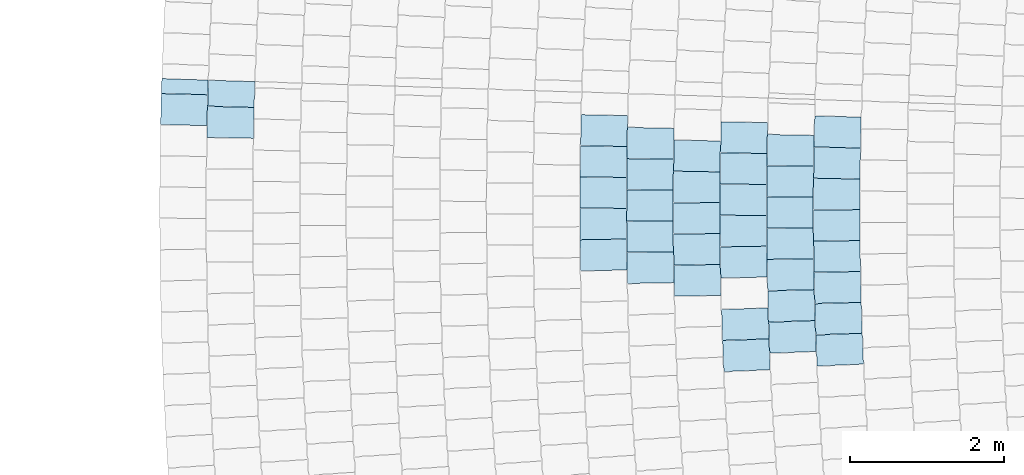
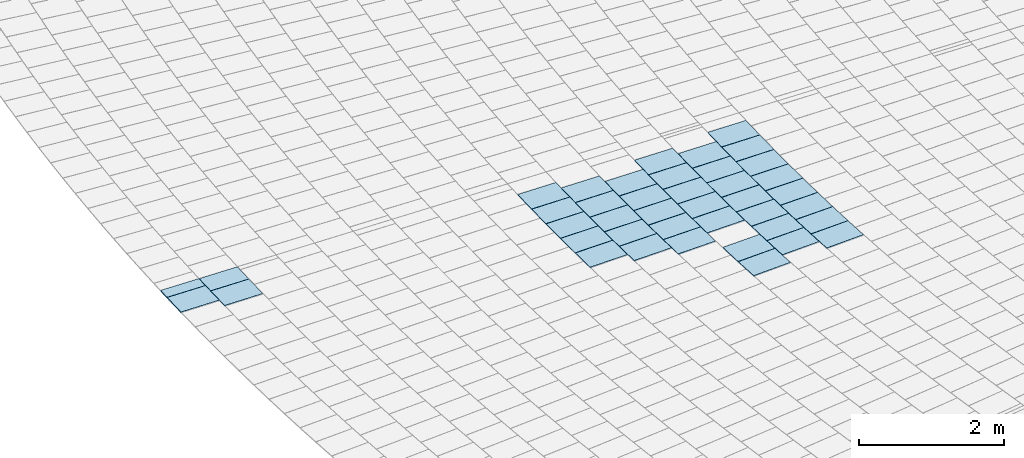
# One storey, part 84 of 438: 41 slabs.
"""IFC2X3 building model written with IfcOpenShell, lengths in millimetres."""

from ifc_helpers import new_model, entity, si_unit, converted_unit, derived_unit, direction, frame, origin, place, context, subcontext, project, spatial, polyline, outline, extrude, material, layer, layer_set, layer_usage, type_object, element, save


model = new_model("IFC2X3")

# Units and contexts
model_context = context("Model", 3, precision=0.01, world=origin(), true_north=direction((6.123031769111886e-17, 1.0)))
body_context = subcontext(model_context, "Body", "Model", "MODEL_VIEW")
ifc_project = project(units=[si_unit("LENGTHUNIT", "METRE", prefix="MILLI"), si_unit("AREAUNIT", "SQUARE_METRE"), si_unit("VOLUMEUNIT", "CUBIC_METRE"), converted_unit("PLANEANGLEUNIT", "DEGREE", entity("IfcRatioMeasure", 0.017453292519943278), si_unit("PLANEANGLEUNIT", "RADIAN"), dimensions=[0, 0, 0, 0, 0, 0, 0]), si_unit("MASSUNIT", "GRAM", prefix="KILO"), derived_unit("MASSDENSITYUNIT", [(si_unit("MASSUNIT", "GRAM", prefix="KILO"), 1), (si_unit("LENGTHUNIT", "METRE"), -3)]), derived_unit("MOMENTOFINERTIAUNIT", [(si_unit("LENGTHUNIT", "METRE"), 4)]), si_unit("TIMEUNIT", "SECOND"), si_unit("FREQUENCYUNIT", "HERTZ"), si_unit("THERMODYNAMICTEMPERATUREUNIT", "DEGREE_CELSIUS"), derived_unit("THERMALTRANSMITTANCEUNIT", [(si_unit("MASSUNIT", "GRAM", prefix="KILO"), 1), (si_unit("THERMODYNAMICTEMPERATUREUNIT", "KELVIN"), -1), (si_unit("TIMEUNIT", "SECOND"), -3)]), derived_unit("THERMALCONDUCTANCEUNIT", [(si_unit("MASSUNIT", "GRAM", prefix="KILO"), 1), (si_unit("LENGTHUNIT", "METRE"), 1), (si_unit("THERMODYNAMICTEMPERATUREUNIT", "KELVIN"), -1), (si_unit("TIMEUNIT", "SECOND"), -3)]), derived_unit("VOLUMETRICFLOWRATEUNIT", [(si_unit("LENGTHUNIT", "METRE"), 3), (si_unit("TIMEUNIT", "SECOND"), -1)]), derived_unit("MASSFLOWRATEUNIT", [(si_unit("MASSUNIT", "GRAM", prefix="KILO"), 1), (si_unit("TIMEUNIT", "SECOND"), -1)]), derived_unit("ROTATIONALFREQUENCYUNIT", [(si_unit("TIMEUNIT", "SECOND"), -1)]), si_unit("ELECTRICCURRENTUNIT", "AMPERE"), si_unit("ELECTRICVOLTAGEUNIT", "VOLT"), si_unit("POWERUNIT", "WATT"), converted_unit("FORCEUNIT", "KIP", entity("IfcRatioMeasure", 2.088543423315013e-05), si_unit("FORCEUNIT", "NEWTON"), dimensions=[1, 1, -2, 0, 0, 0, 0]), si_unit("ILLUMINANCEUNIT", "LUX"), si_unit("LUMINOUSFLUXUNIT", "LUMEN"), si_unit("LUMINOUSINTENSITYUNIT", "CANDELA"), derived_unit("USERDEFINED", [(si_unit("MASSUNIT", "GRAM", prefix="KILO"), -1), (si_unit("LENGTHUNIT", "METRE"), -2), (si_unit("TIMEUNIT", "SECOND"), 3), (si_unit("LUMINOUSFLUXUNIT", "LUMEN"), 1)]), derived_unit("USERDEFINED", [(si_unit("MASSUNIT", "GRAM", prefix="KILO"), 1), (si_unit("LENGTHUNIT", "METRE"), 3), (si_unit("TIMEUNIT", "SECOND"), -3), (si_unit("ELECTRICCURRENTUNIT", "AMPERE"), -2)]), derived_unit("USERDEFINED", [(si_unit("LENGTHUNIT", "METRE"), 2), (si_unit("TIMEUNIT", "SECOND"), -2)]), derived_unit("SOUNDPOWERUNIT", [(si_unit("MASSUNIT", "GRAM", prefix="KILO"), 1), (si_unit("LENGTHUNIT", "METRE"), 2), (si_unit("TIMEUNIT", "SECOND"), -3)]), derived_unit("SOUNDPRESSUREUNIT", [(si_unit("MASSUNIT", "GRAM", prefix="KILO"), 1), (si_unit("LENGTHUNIT", "METRE"), -1), (si_unit("TIMEUNIT", "SECOND"), -2)]), derived_unit("LINEARVELOCITYUNIT", [(si_unit("LENGTHUNIT", "METRE"), 1), (si_unit("TIMEUNIT", "SECOND"), -1)]), si_unit("PRESSUREUNIT", "PASCAL"), derived_unit("USERDEFINED", [(si_unit("LENGTHUNIT", "METRE"), -2), (si_unit("MASSUNIT", "GRAM", prefix="KILO"), 1), (si_unit("TIMEUNIT", "SECOND"), -2)]), derived_unit("LINEARFORCEUNIT", [(si_unit("MASSUNIT", "GRAM", prefix="KILO"), 1), (si_unit("LENGTHUNIT", "METRE"), 1), (si_unit("TIMEUNIT", "SECOND"), -2), (si_unit("LENGTHUNIT", "METRE"), -1)]), derived_unit("PLANARFORCEUNIT", [(si_unit("MASSUNIT", "GRAM", prefix="KILO"), 1), (si_unit("LENGTHUNIT", "METRE"), 1), (si_unit("TIMEUNIT", "SECOND"), -2), (si_unit("LENGTHUNIT", "METRE"), -2)]), derived_unit("SPECIFICHEATCAPACITYUNIT", [(si_unit("LENGTHUNIT", "METRE"), 2), (si_unit("TIMEUNIT", "SECOND"), -2), (si_unit("THERMODYNAMICTEMPERATUREUNIT", "KELVIN"), -1)]), derived_unit("VAPORPERMEABILITYUNIT", [(si_unit("TIMEUNIT", "SECOND"), 1), (si_unit("LENGTHUNIT", "METRE"), -1)]), derived_unit("DYNAMICVISCOSITYUNIT", [(si_unit("MASSUNIT", "GRAM", prefix="KILO"), 1), (si_unit("LENGTHUNIT", "METRE"), -1), (si_unit("TIMEUNIT", "SECOND"), -1)]), derived_unit("THERMALEXPANSIONCOEFFICIENTUNIT", [(si_unit("THERMODYNAMICTEMPERATUREUNIT", "KELVIN"), -1)])], contexts=[model_context])

# Site, building, storey
site_placement = place(None, frame((0.0, 0.0, 0.0), z_axis=(0.0, 0.0, 1.0), x_axis=(0.8191520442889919, 0.5735764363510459, 0.0)))
site = spatial("IfcSite", under=ifc_project, at=site_placement, Name="Default", CompositionType="ELEMENT")
building_placement = place(site_placement, origin())
building = spatial("IfcBuilding", under=site, at=building_placement, CompositionType="ELEMENT")
storey_placement = place(building_placement, origin())
storey = spatial("IfcBuildingStorey", under=building, at=storey_placement, Name="PLAN", CompositionType="ELEMENT", Elevation=0.0)

# Slabs
ifc_material = material(Name="Paint-01")
ifc_layer = layer(ifc_material, 20.00000000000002)
ifc_layer_set = layer_set([ifc_layer], Name="Floor:Slab-179:1000")
ifc_layer_usage = layer_usage(ifc_layer_set, "AXIS3", "POSITIVE", 0.0)
slab_type = type_object("IfcSlabType", Name="Floor:Slab-179:1000", PredefinedType="FLOOR", material=ifc_layer_set)
slab_1_placement = place(storey_placement, origin())
element("IfcSlab", 1, at=slab_1_placement, inside=storey, type_object=slab_type, material=ifc_layer_usage, Name="Floor:Slab-179:1000", ObjectType="Floor:Slab-179:1000", PredefinedType="FLOOR", context=body_context, shape_type="SweptSolid", body=[
    extrude(outline(polyline([(-299.9999976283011, -200.00000294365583), (300.0, -200.00000294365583), (299.99999762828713, 200.000002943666), (-300.0, 200.0000029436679), (-299.9999976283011, -200.00000294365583)])), frame((-77583.65916111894, -40812.26057945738, 520.0), z_axis=(0.0, 0.0, -1.0), x_axis=(0.8083641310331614, -0.5886827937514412, 0.0)), (0.0, 0.0, 1.0), 20.000000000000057),
])
slab_2_placement = place(storey_placement, origin())
element("IfcSlab", 2, at=slab_2_placement, inside=storey, type_object=slab_type, material=ifc_layer_usage, Name="Floor:Slab-179:1000", ObjectType="Floor:Slab-179:1000", PredefinedType="FLOOR", context=body_context, shape_type="SweptSolid", body=[
    extrude(outline(polyline([(-299.99999762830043, -200.0000029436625), (300.0, -200.00000294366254), (299.99999762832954, 200.0000029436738), (-300.0, 200.0000029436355), (-299.99999762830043, -200.0000029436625)])), frame((-78051.978057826, -41467.29138517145, 520.0), z_axis=(0.0, 0.0, -1.0), x_axis=(0.8185239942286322, -0.5744723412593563, 0.0)), (0.0, 0.0, 1.0), 20.000000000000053),
])
slab_3_placement = place(storey_placement, origin())
element("IfcSlab", 3, at=slab_3_placement, inside=storey, type_object=slab_type, material=ifc_layer_usage, Name="Floor:Slab-179:1000", ObjectType="Floor:Slab-179:1000", PredefinedType="FLOOR", context=body_context, shape_type="SweptSolid", body=[
    extrude(outline(polyline([(-299.9999976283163, -200.0000029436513), (300.0, -200.0000029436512), (299.99999762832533, 200.00000294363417), (-300.0, 200.00000294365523), (-299.9999976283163, -200.0000029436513)])), frame((-77819.24896391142, -41138.75334031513, 520.0), z_axis=(0.0, 0.0, -1.0), x_axis=(0.8134750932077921, -0.5815997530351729, 0.0)), (0.0, 0.0, 1.0), 20.000000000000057),
])
slab_4_placement = place(storey_placement, origin())
element("IfcSlab", 4, at=slab_4_placement, inside=storey, type_object=slab_type, material=ifc_layer_usage, Name="Floor:Slab-179:1000", ObjectType="Floor:Slab-179:1000", PredefinedType="FLOOR", context=body_context, shape_type="SweptSolid", body=[
    extrude(outline(polyline([(-299.9999976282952, -200.0000029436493), (300.0, -200.0000029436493), (299.99999762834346, 200.00000294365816), (-300.0, 200.00000294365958), (-299.9999976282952, -200.0000029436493)])), frame((-78281.82868763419, -41797.84964939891, 520.0), z_axis=(0.0, 0.0, -1.0), x_axis=(0.8235104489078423, -0.5673011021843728, 0.0)), (0.0, 0.0, 1.0), 19.999999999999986),
])
slab_5_placement = place(storey_placement, origin())
element("IfcSlab", 5, at=slab_5_placement, inside=storey, type_object=slab_type, material=ifc_layer_usage, Name="Floor:Slab-179:1000", ObjectType="Floor:Slab-179:1000", PredefinedType="FLOOR", context=body_context, shape_type="SweptSolid", body=[
    extrude(outline(polyline([(-299.9999976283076, -200.00000294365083), (300.0, -200.00000294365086), (299.9999976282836, 200.0000029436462), (-300.0, 200.00000294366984), (-299.9999976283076, -200.00000294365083)])), frame((-78508.78331770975, -42130.40291424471, 520.0), z_axis=(0.0, 0.0, -1.0), x_axis=(0.8284340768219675, -0.5600865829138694, 0.0)), (0.0, 0.0, 1.0), 20.000000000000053),
])
slab_6_placement = place(storey_placement, origin())
element("IfcSlab", 6, at=slab_6_placement, inside=storey, type_object=slab_type, material=ifc_layer_usage, Name="Floor:Slab-179:1000", ObjectType="Floor:Slab-179:1000", PredefinedType="FLOOR", context=body_context, shape_type="SweptSolid", body=[
    extrude(outline(polyline([(-299.99999762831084, -200.00000294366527), (300.0, -200.0000029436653), (299.999997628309, 200.0000029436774), (-300.0, 200.0000029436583), (-299.99999762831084, -200.00000294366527)])), frame((-77982.19694821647, -40332.232416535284, 520.0), z_axis=(0.0, 0.0, -1.0), x_axis=(0.8064257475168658, -0.591335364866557, 0.0)), (0.0, 0.0, 1.0), 20.000000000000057),
])
slab_7_placement = place(storey_placement, origin())
element("IfcSlab", 7, at=slab_7_placement, inside=storey, type_object=slab_type, material=ifc_layer_usage, Name="Floor:Slab-179:1000", ObjectType="Floor:Slab-179:1000", PredefinedType="FLOOR", context=body_context, shape_type="SweptSolid", body=[
    extrude(outline(polyline([(-299.99999762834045, -200.00000294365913), (300.0, -200.00000294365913), (299.9999976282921, 200.00000294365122), (-300.0, 200.00000294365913), (-299.99999762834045, -200.00000294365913)])), frame((-78218.85663883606, -40657.90838804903, 520.0), z_axis=(0.0, 0.0, -1.0), x_axis=(0.8114934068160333, -0.5843615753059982, 0.0)), (0.0, 0.0, 1.0), 20.000000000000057),
])
slab_8_placement = place(storey_placement, origin())
element("IfcSlab", 8, at=slab_8_placement, inside=storey, type_object=slab_type, material=ifc_layer_usage, Name="Floor:Slab-179:1000", ObjectType="Floor:Slab-179:1000", PredefinedType="FLOOR", context=body_context, shape_type="SweptSolid", body=[
    extrude(outline(polyline([(-299.99999762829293, -200.00000294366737), (300.0, -200.00000294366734), (299.99999762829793, 200.00000294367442), (-300.0, 200.00000294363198), (-299.99999762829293, -200.00000294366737)])), frame((-78452.70003642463, -40985.61239014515, 520.0), z_axis=(0.0, 0.0, -1.0), x_axis=(0.8165007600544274, -0.5773443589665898, 0.0)), (0.0, 0.0, 1.0), 20.000000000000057),
])
slab_9_placement = place(storey_placement, origin())
element("IfcSlab", 9, at=slab_9_placement, inside=storey, type_object=slab_type, material=ifc_layer_usage, Name="Floor:Slab-179:1000", ObjectType="Floor:Slab-179:1000", PredefinedType="FLOOR", context=body_context, shape_type="SweptSolid", body=[
    extrude(outline(polyline([(-299.9999976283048, -200.00000294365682), (300.0, -200.00000294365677), (299.99999762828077, 200.00000294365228), (-300.0, 200.0000029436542), (-299.9999976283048, -200.00000294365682)])), frame((-78911.86865088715, -41647.00692400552, 520.0), z_axis=(0.0, 0.0, -1.0), x_axis=(0.826333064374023, -0.5631817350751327, 0.0)), (0.0, 0.0, 1.0), 19.999999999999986),
])
slab_10_placement = place(storey_placement, origin())
element("IfcSlab", 10, at=slab_10_placement, inside=storey, type_object=slab_type, material=ifc_layer_usage, Name="Floor:Slab-179:1000", ObjectType="Floor:Slab-179:1000", PredefinedType="FLOOR", context=body_context, shape_type="SweptSolid", body=[
    extrude(outline(polyline([(-299.9999976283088, -200.00000294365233), (300.0, -200.00000294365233), (299.9999976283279, 200.0000029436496), (-300.0, 200.00000294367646), (-299.9999976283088, -200.00000294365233)])), frame((-78683.7097629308, -41315.32006952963, 520.0), z_axis=(0.0, 0.0, -1.0), x_axis=(0.8214474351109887, -0.5702842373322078, 0.0)), (0.0, 0.0, 1.0), 20.000000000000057),
])
slab_11_placement = place(storey_placement, origin())
element("IfcSlab", 11, at=slab_11_placement, inside=storey, type_object=slab_type, material=ifc_layer_usage, Name="Floor:Slab-179:1000", ObjectType="Floor:Slab-179:1000", PredefinedType="FLOOR", context=body_context, shape_type="SweptSolid", body=[
    extrude(outline(polyline([(-299.99999762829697, -200.00000294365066), (300.0, -200.00000294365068), (299.9999976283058, 200.00000294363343), (-300.0, 200.0000029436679), (-299.99999762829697, -200.00000294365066)])), frame((-75514.19225034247, -42082.109399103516, 520.0), z_axis=(0.0, 0.0, -1.0), x_axis=(0.8057716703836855, -0.5922263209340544, 0.0)), (0.0, 0.0, 1.0), 19.999999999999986),
])
slab_12_placement = place(storey_placement, origin())
element("IfcSlab", 12, at=slab_12_placement, inside=storey, type_object=slab_type, material=ifc_layer_usage, Name="Floor:Slab-179:1000", ObjectType="Floor:Slab-179:1000", PredefinedType="FLOOR", context=body_context, shape_type="SweptSolid", body=[
    extrude(outline(polyline([(-299.99999762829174, -200.000002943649), (300.0, -200.00000294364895), (299.99999762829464, 200.00000294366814), (-300.0, 200.0000029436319), (-299.99999762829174, -200.000002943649)])), frame((-75985.26110394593, -42735.580898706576, 520.0), z_axis=(0.0, 0.0, -1.0), x_axis=(0.8165574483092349, -0.5772641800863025, 0.0)), (0.0, 0.0, 1.0), 20.000000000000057),
])
slab_13_placement = place(storey_placement, origin())
element("IfcSlab", 13, at=slab_13_placement, inside=storey, type_object=slab_type, material=ifc_layer_usage, Name="Floor:Slab-179:1000", ObjectType="Floor:Slab-179:1000", PredefinedType="FLOOR", context=body_context, shape_type="SweptSolid", body=[
    extrude(outline(polyline([(-299.99999762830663, -200.00000294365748), (300.0, -200.00000294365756), (299.99999762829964, 200.00000294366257), (-300.0, 200.00000294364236), (-299.99999762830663, -200.00000294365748)])), frame((-75751.23332653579, -42407.759048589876, 520.0), z_axis=(0.0, 0.0, -1.0), x_axis=(0.81119905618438, -0.5847701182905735, 0.0)), (0.0, 0.0, 1.0), 19.999999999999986),
])
slab_14_placement = place(storey_placement, origin())
element("IfcSlab", 14, at=slab_14_placement, inside=storey, type_object=slab_type, material=ifc_layer_usage, Name="Floor:Slab-179:1000", ObjectType="Floor:Slab-179:1000", PredefinedType="FLOOR", context=body_context, shape_type="SweptSolid", body=[
    extrude(outline(polyline([(-299.99999762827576, -200.0000029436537), (300.0, -200.00000294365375), (299.99999762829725, 200.00000294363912), (-300.0, 200.0000029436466), (-299.99999762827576, -200.0000029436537)])), frame((-76444.19740276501, -43397.62949152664, 520.0), z_axis=(0.0, 0.0, -1.0), x_axis=(0.8270654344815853, -0.5621056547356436, 0.0)), (0.0, 0.0, 1.0), 20.000000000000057),
])
slab_15_placement = place(storey_placement, origin())
element("IfcSlab", 15, at=slab_15_placement, inside=storey, type_object=slab_type, material=ifc_layer_usage, Name="Floor:Slab-179:1000", ObjectType="Floor:Slab-179:1000", PredefinedType="FLOOR", context=body_context, shape_type="SweptSolid", body=[
    extrude(outline(polyline([(-299.9999976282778, -200.00000294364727), (300.0, -200.0000029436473), (299.9999976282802, 200.00000294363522), (-300.0, 200.0000029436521), (-299.9999976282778, -200.00000294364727)])), frame((-76669.06689096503, -43731.79992602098, 520.0), z_axis=(0.0, 0.0, -1.0), x_axis=(0.8322141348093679, -0.554454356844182, 0.0)), (0.0, 0.0, 1.0), 19.999999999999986),
])
slab_16_placement = place(storey_placement, origin())
element("IfcSlab", 16, at=slab_16_placement, inside=storey, type_object=slab_type, material=ifc_layer_usage, Name="Floor:Slab-179:1000", ObjectType="Floor:Slab-179:1000", PredefinedType="FLOOR", context=body_context, shape_type="SweptSolid", body=[
    extrude(outline(polyline([(-299.99999762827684, -200.00000294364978), (300.0, -200.00000294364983), (299.99999762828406, 200.00000294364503), (-300.0, 200.00000294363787), (-299.99999762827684, -200.00000294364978)])), frame((-76890.84501728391, -44068.02994951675, 520.0), z_axis=(0.0, 0.0, -1.0), x_axis=(0.8372920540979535, -0.5467559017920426, 0.0)), (0.0, 0.0, 1.0), 20.000000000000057),
])
slab_17_placement = place(storey_placement, origin())
element("IfcSlab", 17, at=slab_17_placement, inside=storey, type_object=slab_type, material=ifc_layer_usage, Name="Floor:Slab-179:1000", ObjectType="Floor:Slab-179:1000", PredefinedType="FLOOR", context=body_context, shape_type="SweptSolid", body=[
    extrude(outline(polyline([(-299.9999976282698, -200.000002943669), (300.0, -200.00000294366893), (299.99999762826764, 200.00000294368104), (-300.0, 200.0000029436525), (-299.9999976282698, -200.000002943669)])), frame((-76216.2556781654, -43065.54706772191, 520.0), z_axis=(0.0, 0.0, -1.0), x_axis=(0.8218463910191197, -0.5697091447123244, 0.0)), (0.0, 0.0, 1.0), 20.000000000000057),
])
slab_18_placement = place(storey_placement, origin())
element("IfcSlab", 18, at=slab_18_placement, inside=storey, type_object=slab_type, material=ifc_layer_usage, Name="Floor:Slab-179:1000", ObjectType="Floor:Slab-179:1000", PredefinedType="FLOOR", context=body_context, shape_type="SweptSolid", body=[
    extrude(outline(polyline([(-299.9999976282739, -200.0000029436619), (300.0, -200.00000294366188), (299.9999976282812, 200.00000294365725), (-300.0, 200.00000294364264), (-299.9999976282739, -200.0000029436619)])), frame((-77109.51291916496, -44406.29096515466, 520.0), z_axis=(0.0, 0.0, -1.0), x_axis=(0.8422987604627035, -0.539010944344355, 0.0)), (0.0, 0.0, 1.0), 19.999999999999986),
])
slab_19_placement = place(storey_placement, origin())
element("IfcSlab", 19, at=slab_19_placement, inside=storey, type_object=slab_type, material=ifc_layer_usage, Name="Floor:Slab-179:1000", ObjectType="Floor:Slab-179:1000", PredefinedType="FLOOR", context=body_context, shape_type="SweptSolid", body=[
    extrude(outline(polyline([(-299.9999976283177, -200.00000294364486), (300.0, -200.00000294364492), (299.99999762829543, 200.00000294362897), (-300.0, 200.00000294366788), (-299.9999976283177, -200.00000294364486)])), frame((-76150.42258518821, -41927.395212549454, 520.0), z_axis=(0.0, 0.0, -1.0), x_axis=(0.8091307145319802, -0.5876286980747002, 0.0)), (0.0, 0.0, 1.0), 20.000000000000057),
])
slab_20_placement = place(storey_placement, origin())
element("IfcSlab", 20, at=slab_20_placement, inside=storey, type_object=slab_type, material=ifc_layer_usage, Name="Floor:Slab-179:1000", ObjectType="Floor:Slab-179:1000", PredefinedType="FLOOR", context=body_context, shape_type="SweptSolid", body=[
    extrude(outline(polyline([(-299.99999762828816, -200.00000294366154), (300.0, -200.00000294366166), (299.9999976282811, 200.00000294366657), (-300.0, 200.00000294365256), (-299.99999762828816, -200.00000294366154)])), frame((-76385.59070301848, -42254.324657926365, 520.0), z_axis=(0.0, 0.0, -1.0), x_axis=(0.8144416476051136, -0.5802454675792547, 0.0)), (0.0, 0.0, 1.0), 20.000000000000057),
])
slab_21_placement = place(storey_placement, origin())
element("IfcSlab", 21, at=slab_21_placement, inside=storey, type_object=slab_type, material=ifc_layer_usage, Name="Floor:Slab-179:1000", ObjectType="Floor:Slab-179:1000", PredefinedType="FLOOR", context=body_context, shape_type="SweptSolid", body=[
    extrude(outline(polyline([(-299.9999976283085, -200.00000294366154), (300.0, -200.0000029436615), (299.99999762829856, 200.00000294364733), (-300.0, 200.0000029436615), (-299.9999976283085, -200.00000294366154)])), frame((-76617.77571853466, -42583.37940180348, 520.0), z_axis=(0.0, 0.0, -1.0), x_axis=(0.8196852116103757, -0.5728142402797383, 0.0)), (0.0, 0.0, 1.0), 20.000000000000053),
])
slab_22_placement = place(storey_placement, origin())
element("IfcSlab", 22, at=slab_22_placement, inside=storey, type_object=slab_type, material=ifc_layer_usage, Name="Floor:Slab-179:1000", ObjectType="Floor:Slab-179:1000", PredefinedType="FLOOR", context=body_context, shape_type="SweptSolid", body=[
    extrude(outline(polyline([(-299.99999762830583, -200.00000294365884), (300.0, -200.0000029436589), (299.99999762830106, 200.0000029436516), (-300.0, 200.0000029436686), (-299.99999762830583, -200.00000294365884)])), frame((-77296.24133545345, -43583.02237111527, 520.0), z_axis=(0.0, 0.0, -1.0), x_axis=(0.8350073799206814, -0.550238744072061, 0.0)), (0.0, 0.0, 1.0), 19.99999999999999),
])
slab_23_placement = place(storey_placement, origin())
element("IfcSlab", 23, at=slab_23_placement, inside=storey, type_object=slab_type, material=ifc_layer_usage, Name="Floor:Slab-179:1000", ObjectType="Floor:Slab-179:1000", PredefinedType="FLOOR", context=body_context, shape_type="SweptSolid", body=[
    extrude(outline(polyline([(-299.999997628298, -200.00000294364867), (300.0, -200.0000029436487), (299.99999762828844, 200.00000294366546), (-300.0, 200.00000294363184), (-299.999997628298, -200.00000294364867)])), frame((-77073.11986735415, -43247.755736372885, 520.0), z_axis=(0.0, 0.0, -1.0), x_axis=(0.8299685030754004, -0.5578102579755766, 0.0)), (0.0, 0.0, 1.0), 19.999999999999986),
])
slab_24_placement = place(storey_placement, origin())
element("IfcSlab", 24, at=slab_24_placement, inside=storey, type_object=slab_type, material=ifc_layer_usage, Name="Floor:Slab-179:1000", ObjectType="Floor:Slab-179:1000", PredefinedType="FLOOR", context=body_context, shape_type="SweptSolid", body=[
    extrude(outline(polyline([(-299.9999976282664, -200.0000029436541), (300.0, -200.0000029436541), (299.99999762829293, 200.00000294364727), (-300.0, 200.00000294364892), (-299.9999976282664, -200.0000029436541)])), frame((-77516.30437394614, -43920.30439700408, 520.0), z_axis=(0.0, 0.0, -1.0), x_axis=(0.8399771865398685, -0.5426217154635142, 0.0)), (0.0, 0.0, 1.0), 20.000000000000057),
])
slab_25_placement = place(storey_placement, origin())
element("IfcSlab", 25, at=slab_25_placement, inside=storey, type_object=slab_type, material=ifc_layer_usage, Name="Floor:Slab-179:1000", ObjectType="Floor:Slab-179:1000", PredefinedType="FLOOR", context=body_context, shape_type="SweptSolid", body=[
    extrude(outline(polyline([(-299.99999762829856, -200.00000294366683), (300.0, -200.00000294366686), (299.9999976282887, 200.00000294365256), (-300.0, 200.0000029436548), (-299.99999762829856, -200.00000294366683)])), frame((-76846.95842583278, -42914.53222539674, 520.0), z_axis=(0.0, 0.0, -1.0), x_axis=(0.8248609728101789, -0.565335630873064, 0.0)), (0.0, 0.0, 1.0), 20.000000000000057),
])
slab_26_placement = place(storey_placement, origin())
element("IfcSlab", 26, at=slab_26_placement, inside=storey, type_object=slab_type, material=ifc_layer_usage, Name="Floor:Slab-179:1000", ObjectType="Floor:Slab-179:1000", PredefinedType="FLOOR", context=body_context, shape_type="SweptSolid", body=[
    extrude(outline(polyline([(-299.99999762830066, -200.0000029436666), (300.0, -200.0000029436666), (299.9999976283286, 200.00000294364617), (-300.0, 200.0000029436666), (-299.99999762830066, -200.0000029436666)])), frame((-76549.08512009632, -41447.21985374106, 520.0), z_axis=(0.0, 0.0, -1.0), x_axis=(0.8071063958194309, -0.5904060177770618, 0.0)), (0.0, 0.0, 1.0), 20.000000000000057),
])
slab_27_placement = place(storey_placement, origin())
element("IfcSlab", 27, at=slab_27_placement, inside=storey, type_object=slab_type, material=ifc_layer_usage, Name="Floor:Slab-179:1000", ObjectType="Floor:Slab-179:1000", PredefinedType="FLOOR", context=body_context, shape_type="SweptSolid", body=[
    extrude(outline(polyline([(-299.9999976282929, -200.0000029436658), (300.0, -200.00000294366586), (299.999997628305, 200.00000294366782), (-300.0, 200.00000294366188), (-299.9999976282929, -200.0000029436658)])), frame((-76785.37389193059, -41773.294680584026, 520.0), z_axis=(0.0, 0.0, -1.0), x_axis=(0.8123707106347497, -0.5831413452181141, 0.0)), (0.0, 0.0, 1.0), 20.000000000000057),
])
slab_28_placement = place(storey_placement, origin())
element("IfcSlab", 28, at=slab_28_placement, inside=storey, type_object=slab_type, material=ifc_layer_usage, Name="Floor:Slab-179:1000", ObjectType="Floor:Slab-179:1000", PredefinedType="FLOOR", context=body_context, shape_type="SweptSolid", body=[
    extrude(outline(polyline([(-299.999997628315, -200.00000294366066), (300.0, -200.00000294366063), (299.9999976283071, 200.0000029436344), (-300.0, 200.00000294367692), (-299.999997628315, -200.00000294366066)])), frame((-77018.72779153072, -42101.47623694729, 520.0), z_axis=(0.0, 0.0, -1.0), x_axis=(0.8175696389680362, -0.5758297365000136, 0.0)), (0.0, 0.0, 1.0), 19.999999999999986),
])
slab_29_placement = place(storey_placement, origin())
element("IfcSlab", 29, at=slab_29_placement, inside=storey, type_object=slab_type, material=ifc_layer_usage, Name="Floor:Slab-179:1000", ObjectType="Floor:Slab-179:1000", PredefinedType="FLOOR", context=body_context, shape_type="SweptSolid", body=[
    extrude(outline(polyline([(-299.99999762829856, -200.00000294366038), (300.0, -200.00000294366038), (299.9999976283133, 200.00000294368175), (-300.0, 200.0000029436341), (-299.99999762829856, -200.00000294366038)])), frame((-77249.12803659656, -42431.73810799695, 520.0), z_axis=(0.0, 0.0, -1.0), x_axis=(0.8227027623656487, -0.5684717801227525, 0.0)), (0.0, 0.0, 1.0), 20.000000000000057),
])
slab_30_placement = place(storey_placement, origin())
element("IfcSlab", 30, at=slab_30_placement, inside=storey, type_object=slab_type, material=ifc_layer_usage, Name="Floor:Slab-179:1000", ObjectType="Floor:Slab-179:1000", PredefinedType="FLOOR", context=body_context, shape_type="SweptSolid", body=[
    extrude(outline(polyline([(-299.99999762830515, -200.00000294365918), (300.0, -200.00000294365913), (299.9999976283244, 200.0000029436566), (-300.0, 200.0000029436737), (-299.99999762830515, -200.00000294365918)])), frame((-77476.55608256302, -42764.05371145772, 520.0), z_axis=(0.0, 0.0, -1.0), x_axis=(0.8277696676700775, -0.5610680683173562, 0.0)), (0.0, 0.0, 1.0), 20.000000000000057),
])
slab_31_placement = place(storey_placement, origin())
element("IfcSlab", 31, at=slab_31_placement, inside=storey, type_object=slab_type, material=ifc_layer_usage, Name="Floor:Slab-179:1000", ObjectType="Floor:Slab-179:1000", PredefinedType="FLOOR", context=body_context, shape_type="SweptSolid", body=[
    extrude(outline(polyline([(-299.99999762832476, -200.00000294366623), (300.0, -200.00000294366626), (299.99999762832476, 200.00000294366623), (-300.0, 200.0000029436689), (-299.99999762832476, -200.00000294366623)])), frame((-78140.82517745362, -43773.054626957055, 520.0), z_axis=(0.0, 0.0, -1.0), x_axis=(0.8425690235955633, -0.5385883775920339, 0.0)), (0.0, 0.0, 1.0), 19.999999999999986),
])
slab_32_placement = place(storey_placement, origin())
element("IfcSlab", 32, at=slab_32_placement, inside=storey, type_object=slab_type, material=ifc_layer_usage, Name="Floor:Slab-179:1000", ObjectType="Floor:Slab-179:1000", PredefinedType="FLOOR", context=body_context, shape_type="SweptSolid", body=[
    extrude(outline(polyline([(-299.99999762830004, -200.00000294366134), (300.0, -200.00000294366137), (299.9999976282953, 200.00000294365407), (-300.0, 200.00000294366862), (-299.99999762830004, -200.00000294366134)])), frame((-77922.42259655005, -43434.73896215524, 520.0), z_axis=(0.0, 0.0, -1.0), x_axis=(0.8377031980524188, -0.5461257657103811, 0.0)), (0.0, 0.0, 1.0), 20.000000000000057),
])
slab_33_placement = place(storey_placement, origin())
element("IfcSlab", 33, at=slab_33_placement, inside=storey, type_object=slab_type, material=ifc_layer_usage, Name="Floor:Slab-179:1000", ObjectType="Floor:Slab-179:1000", PredefinedType="FLOOR", context=body_context, shape_type="SweptSolid", body=[
    extrude(outline(polyline([(-299.99999762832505, -200.00000294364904), (300.0, -200.00000294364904), (299.9999976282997, 200.0000029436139), (-300.0, 200.000002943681), (-299.99999762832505, -200.00000294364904)])), frame((-77184.72392294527, -41292.610753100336, 520.0), z_axis=(0.0, 0.0, -1.0), x_axis=(0.8103453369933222, -0.5859525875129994, 0.0)), (0.0, 0.0, 1.0), 19.999999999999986),
])
slab_34_placement = place(storey_placement, origin())
element("IfcSlab", 34, at=slab_34_placement, inside=storey, type_object=slab_type, material=ifc_layer_usage, Name="Floor:Slab-179:1000", ObjectType="Floor:Slab-179:1000", PredefinedType="FLOOR", context=body_context, shape_type="SweptSolid", body=[
    extrude(outline(polyline([(-299.9999976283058, -200.00000294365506), (300.0, -200.00000294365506), (299.9999976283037, 200.0000029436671), (-300.0, 200.00000294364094), (-299.9999976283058, -200.00000294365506)])), frame((-77419.21225988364, -41619.938515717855, 520.0), z_axis=(0.0, 0.0, -1.0), x_axis=(0.8155000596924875, -0.5787569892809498, 0.0)), (0.0, 0.0, 1.0), 19.999999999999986),
])
slab_35_placement = place(storey_placement, origin())
element("IfcSlab", 35, at=slab_35_placement, inside=storey, type_object=slab_type, material=ifc_layer_usage, Name="Floor:Slab-179:1000", ObjectType="Floor:Slab-179:1000", PredefinedType="FLOOR", context=body_context, shape_type="SweptSolid", body=[
    extrude(outline(polyline([(-299.9999976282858, -200.00000294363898), (300.0, -200.000002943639), (299.99999762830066, 200.0000029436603), (-300.0, 200.00000294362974), (-299.9999976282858, -200.00000294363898)])), frame((-77650.79412083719, -41949.32899223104, 520.0), z_axis=(0.0, 0.0, -1.0), x_axis=(0.8205908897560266, -0.5715160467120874, 0.0)), (0.0, 0.0, 1.0), 19.999999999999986),
])
slab_36_placement = place(storey_placement, origin())
element("IfcSlab", 36, at=slab_36_placement, inside=storey, type_object=slab_type, material=ifc_layer_usage, Name="Floor:Slab-179:1000", ObjectType="Floor:Slab-179:1000", PredefinedType="FLOOR", context=body_context, shape_type="SweptSolid", body=[
    extrude(outline(polyline([(-299.99999762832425, -200.00000294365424), (300.0, -200.0000029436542), (299.99999762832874, 200.00000294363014), (-300.0, 200.00000294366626), (-299.99999762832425, -200.00000294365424)])), frame((-77879.4513618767, -42280.75637562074, 520.0), z_axis=(0.0, 0.0, -1.0), x_axis=(0.8256174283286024, -0.5642303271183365, 0.0)), (0.0, 0.0, 1.0), 20.000000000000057),
])
slab_37_placement = place(storey_placement, origin())
element("IfcSlab", 37, at=slab_37_placement, inside=storey, type_object=slab_type, material=ifc_layer_usage, Name="Floor:Slab-179:1000", ObjectType="Floor:Slab-179:1000", PredefinedType="FLOOR", context=body_context, shape_type="SweptSolid", body=[
    extrude(outline(polyline([(-299.99999762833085, -200.00000294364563), (300.0, -200.00000294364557), (299.99999762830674, 200.00000294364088), (-300.0, 200.0000029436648), (-299.99999762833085, -200.00000294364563)])), frame((-78105.16606821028, -42614.19469928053, 520.0), z_axis=(0.0, 0.0, -1.0), x_axis=(0.8305792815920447, -0.5569004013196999, 0.0)), (0.0, 0.0, 1.0), 20.000000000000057),
])
slab_38_placement = place(storey_placement, origin())
element("IfcSlab", 38, at=slab_38_placement, inside=storey, type_object=slab_type, material=ifc_layer_usage, Name="Floor:Slab-179:1000", ObjectType="Floor:Slab-179:1000", PredefinedType="FLOOR", context=body_context, shape_type="SweptSolid", body=[
    extrude(outline(polyline([(-300.0, -167.29426668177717), (299.99999780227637, -167.29426668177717), (300.0, 167.2942666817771), (-299.9999978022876, 167.294266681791), (-300.0, -167.29426668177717)])), frame((-81664.92251300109, -37171.87466161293, 520.0), z_axis=(0.0, 0.0, -1.0), x_axis=(0.8017706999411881, -0.5976317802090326, 0.0)), (0.0, 0.0, 1.0), 19.99999999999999),
])
slab_39_placement = place(storey_placement, origin())
element("IfcSlab", 39, at=slab_39_placement, inside=storey, type_object=slab_type, material=ifc_layer_usage, Name="Floor:Slab-179:1000", ObjectType="Floor:Slab-179:1000", PredefinedType="FLOOR", context=body_context, shape_type="SweptSolid", body=[
    extrude(outline(polyline([(-300.0, -200.0000029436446), (299.99999762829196, -200.0000029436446), (300.0, 200.0000029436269), (-299.99999762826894, 200.00000294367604), (-300.0, -200.0000029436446)])), frame((-81884.56608559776, -37469.171733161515, 520.0), z_axis=(0.0, 0.0, -1.0), x_axis=(0.8064115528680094, -0.5913547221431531, 0.0)), (0.0, 0.0, 1.0), 20.000000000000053),
])
slab_40_placement = place(storey_placement, origin())
element("IfcSlab", 40, at=slab_40_placement, inside=storey, type_object=slab_type, material=ifc_layer_usage, Name="Floor:Slab-179:1000", ObjectType="Floor:Slab-179:1000", PredefinedType="FLOOR", context=body_context, shape_type="SweptSolid", body=[
    extrude(outline(polyline([(-300.0, -200.0000029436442), (299.99999762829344, -200.0000029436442), (300.0, 200.00000294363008), (-299.9999976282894, 200.00000294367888), (-300.0, -200.0000029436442)])), frame((-82282.80813620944, -36989.53817827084, 520.0), z_axis=(0.0, 0.0, -1.0), x_axis=(0.8046925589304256, -0.5936917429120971, 0.0)), (0.0, 0.0, 1.0), 19.99999999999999),
])
slab_41_placement = place(storey_placement, origin())
element("IfcSlab", 41, at=slab_41_placement, inside=storey, type_object=slab_type, material=ifc_layer_usage, Name="Floor:Slab-179:1000", ObjectType="Floor:Slab-179:1000", PredefinedType="FLOOR", context=body_context, shape_type="SweptSolid", body=[
    extrude(outline(polyline([(-299.99999919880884, -95.19024377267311), (299.99999818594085, -95.19024377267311), (299.99999919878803, 95.19024377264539), (-299.9999981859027, 95.1902437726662), (-299.99999919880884, -95.19024377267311)])), frame((-82105.5855123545, -36750.58187106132, 520.0), z_axis=(0.0, 0.0, -1.0), x_axis=(0.8000881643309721, -0.5998824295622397, 0.0)), (0.0, 0.0, 1.0), 20.000000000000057),
])

save(model, "model.ifc")
